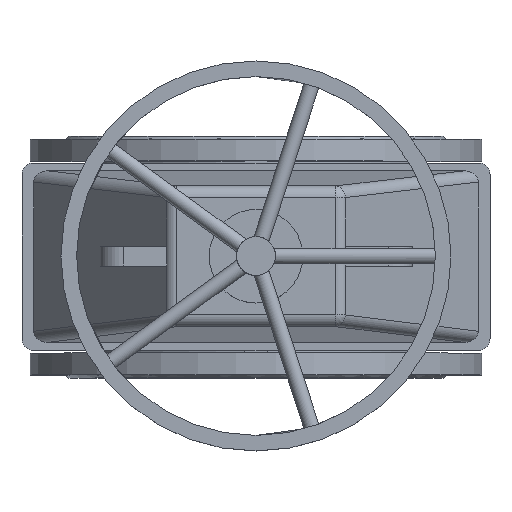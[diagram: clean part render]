
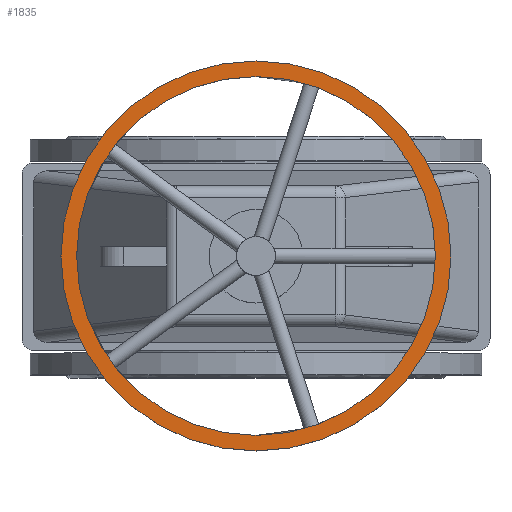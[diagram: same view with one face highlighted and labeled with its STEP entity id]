
A CAD part, top view. The second image highlights one B-rep face of the part: STEP entity #1835.
In plain terms, the highlighted planar face has unit normal (0, 0, 1).
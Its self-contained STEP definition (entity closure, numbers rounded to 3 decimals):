
#1835=ADVANCED_FACE('',(#4276,#4278),#4280,.T.);
#4276=FACE_BOUND('',#4277,.T.);
#4277=EDGE_LOOP('',(#5413));
#4278=FACE_BOUND('',#4279,.T.);
#4279=EDGE_LOOP('',(#5414));
#4280=PLANE('',#4281);
#4281=AXIS2_PLACEMENT_3D('',#4282,#4283,#4284);
#4282=CARTESIAN_POINT('',(0.,0.,950.5));
#4283=DIRECTION('',(0.,0.,1.));
#4284=DIRECTION('',(0.,-1.,0.));
#5413=ORIENTED_EDGE('',*,*,#5975,.T.);
#5414=ORIENTED_EDGE('',*,*,#5973,.T.);
#5973=EDGE_CURVE('',#6915,#6915,#6916,.F.);
#5975=EDGE_CURVE('',#6919,#6919,#6920,.T.);
#6915=VERTEX_POINT('',#12041);
#6916=CIRCLE('',#12042,230.);
#6919=VERTEX_POINT('',#12051);
#6920=CIRCLE('',#12052,250.);
#12041=CARTESIAN_POINT('',(0.,-230.,950.5));
#12042=AXIS2_PLACEMENT_3D('',#12043,#12044,#12045);
#12043=CARTESIAN_POINT('',(0.,0.,950.5));
#12044=DIRECTION('',(0.,0.,1.));
#12045=DIRECTION('',(0.,-1.,0.));
#12051=CARTESIAN_POINT('',(0.,-250.,950.5));
#12052=AXIS2_PLACEMENT_3D('',#12053,#12054,#12055);
#12053=CARTESIAN_POINT('',(0.,0.,950.5));
#12054=DIRECTION('',(0.,0.,1.));
#12055=DIRECTION('',(0.,-1.,0.));
